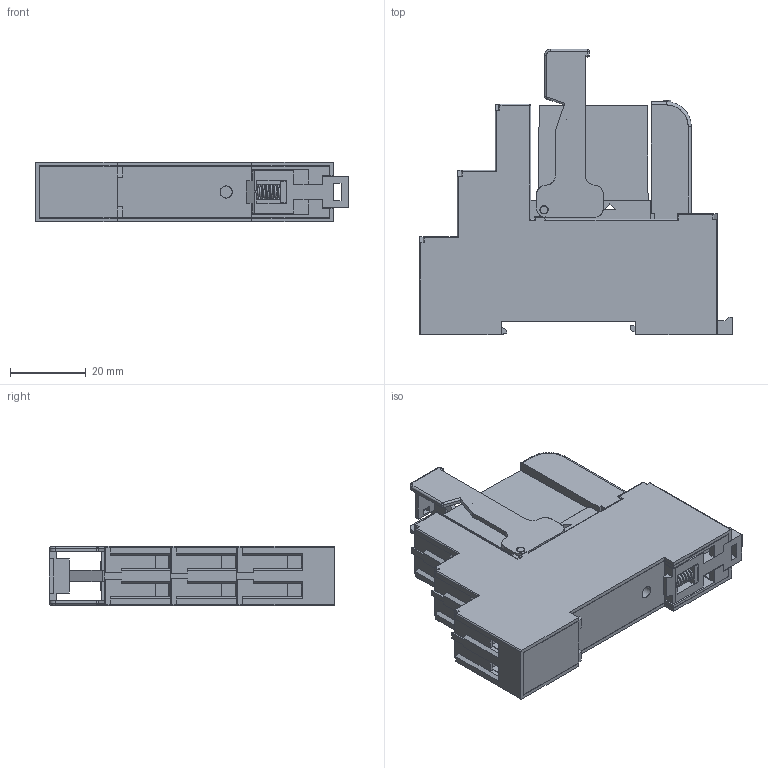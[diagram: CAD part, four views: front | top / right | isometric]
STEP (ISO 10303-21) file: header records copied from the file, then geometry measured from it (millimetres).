
FILE_DESCRIPTION(('STEP AP214'),'2;1');
FILE_NAME('4861.stp','2010-10-30T08:55:31',(''),(''),'2007.1.106','THINKDESIGN','');
FILE_SCHEMA(('AUTOMOTIVE_DESIGN'));
Products named in the file (1): None
Bounding box: 82.8 x 75.4 x 15.8 mm (x, y, z)
Surface area: 28316.2 mm2 (no closed solid volume)
Topology: 0 solids, 0 shells, 1077 faces, 5770 edges, 5746 vertices
Faces by surface type: plane 842, cylinder 154, bspline 81
Full cylindrical faces by diameter (mm): 1.8 x1, 2 x3, 2.2 x8, 2.6 x8, 3 x8, 3.2 x1, 4.7 x8, 5 x8
Entity records: 59496 total; most frequent: CARTESIAN_POINT 17213, DIRECTION 7342, COMPOSITE_CURVE_SEGMENT 5754, TRIMMED_CURVE 4960, VECTOR 4606, LINE 4606, AXIS2_PLACEMENT_3D 1368, OUTER_BOUNDARY_CURVE 1077
